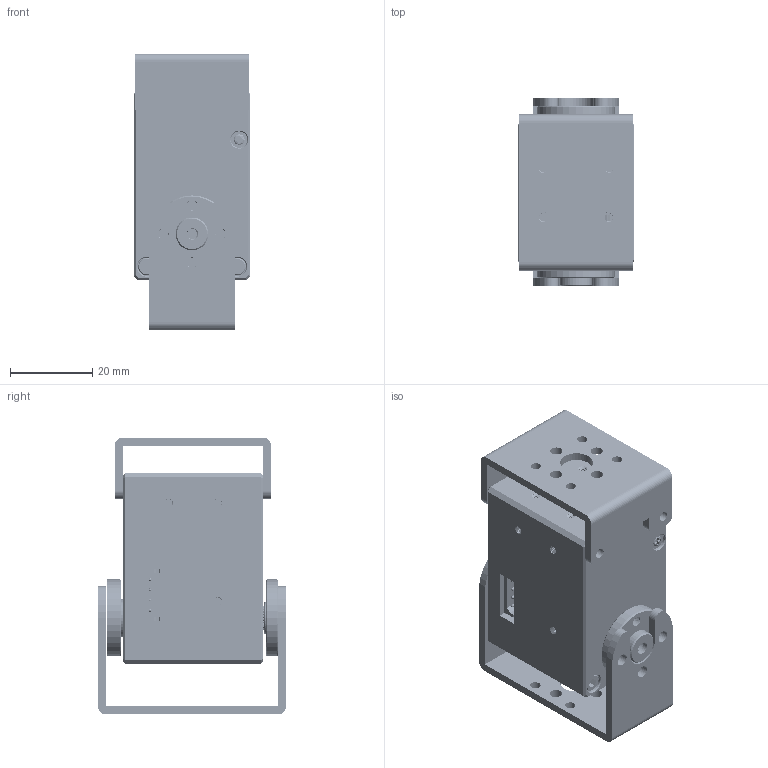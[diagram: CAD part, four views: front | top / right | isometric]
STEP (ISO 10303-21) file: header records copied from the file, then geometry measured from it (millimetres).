
FILE_DESCRIPTION((''),'2;1');
FILE_NAME('SM40_DS-20180327_ASM','2019-09-20T',('WUSALT01'),(''),'PRO/ENGINEER BY PARAMETRIC TECHNOLOGY CORPORATION, 2008380','PRO/ENGINEER BY PARAMETRIC TECHNOLOGY CORPORATION, 2008380','');
FILE_SCHEMA(('AUTOMOTIVE_DESIGN_CC2 { 1 2 10303 214 -1 1 5 2 }'));
Products named in the file (21): MIDDLECAB_1_2; TOP_5; OUTPUTGEAR_1; MR128ZZ_1; DANWEIQI_1; XITIE_1; CHOUCHENG_1; PCB-2_1; MF85ZZ_2; FUZHU01_3; DANPAN_1; M2-4LOUSI_1; NEW4PIN_3_28_1_1; BOTTOM-1_16; M25-12SCREW_1; FK-AP-031-25T-20180104_9; SM40_ASM_13_ASM_ASM; SM40_DS-20180327_ASM_ASM; SM40BL-MU-20190118; SM40BL-SU-20190118; SM40_DS-20180327_ASM
Assembly tree (32 placements, depth 4):
  SM40_DS-20180327_ASM
    SM40_DS-20180327_ASM_ASM
      SM40_ASM_13_ASM_ASM
        MIDDLECAB_1_2
        TOP_5
        OUTPUTGEAR_1
        MR128ZZ_1
        DANWEIQI_1
        XITIE_1
        CHOUCHENG_1
        PCB-2_1
        MF85ZZ_2
        FUZHU01_3
        DANPAN_1
        M2-4LOUSI_1  x5
        NEW4PIN_3_28_1_1  x2
        BOTTOM-1_16
        M25-12SCREW_1  x8
        FK-AP-031-25T-20180104_9
    SM40BL-MU-20190118
    SM40BL-SU-20190118
Bounding box: 28.5 x 45.9 x 67.55 mm (x, y, z)
Volume: 29260.3 mm3; surface area: 35589.5 mm2
Topology: 30 solids, 30 shells, 4436 faces, 12767 edges, 8482 vertices
Faces by surface type: cylinder 2783, plane 740, bspline 699, cone 102, extrusion 92, torus 20
Entity records: 231279 total; most frequent: CARTESIAN_POINT 145352, ORIENTED_EDGE 17992, DIRECTION 12012, EDGE_CURVE 8996, VERTEX_POINT 5997, AXIS2_PLACEMENT_3D 4234, B_SPLINE_CURVE_WITH_KNOTS 4039, VECTOR 3544
